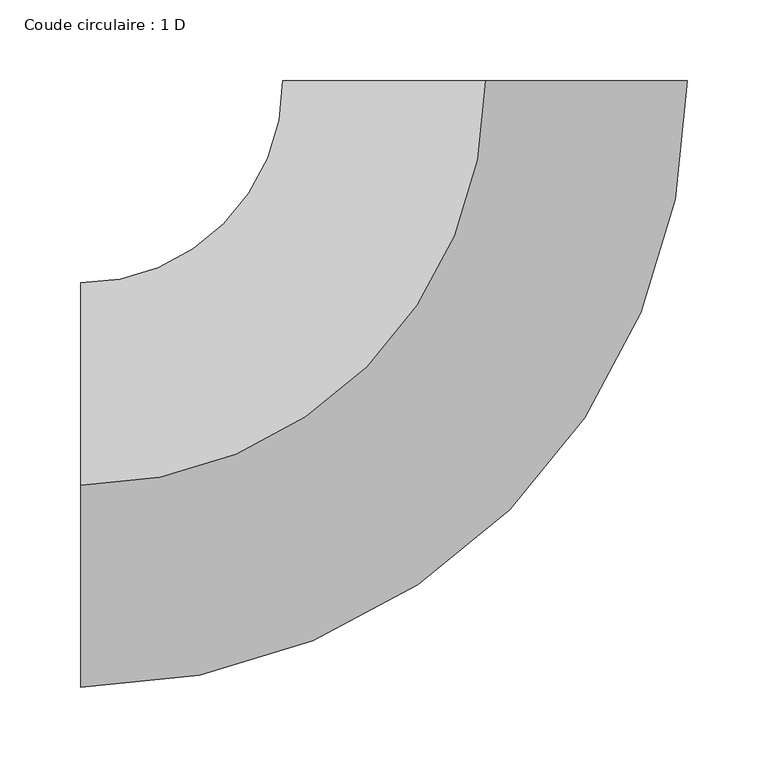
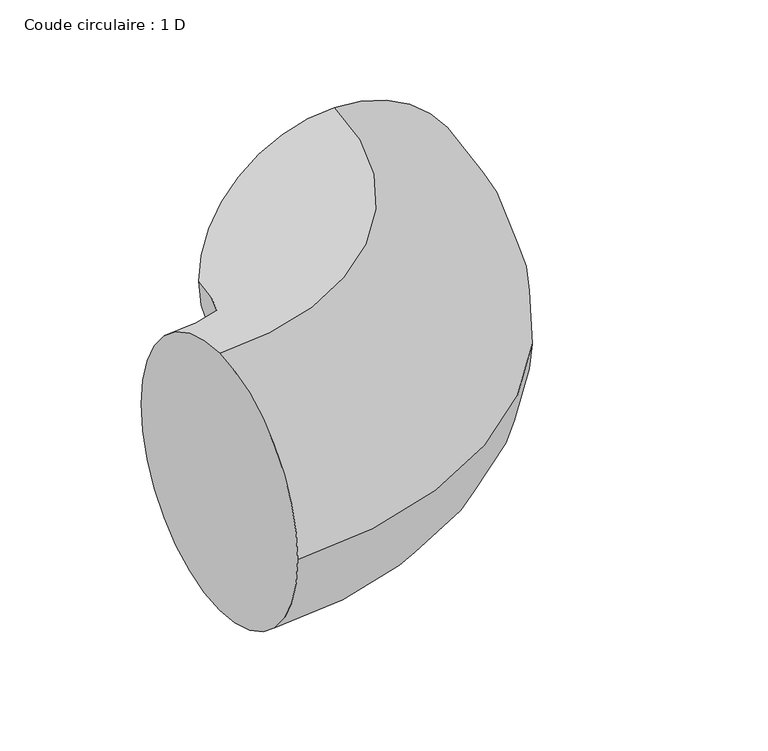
"""IFC4 building model written with IfcOpenShell, lengths in millimetres: duct fitting geometry, Coude circulaire : 1 D."""

from ifc_helpers import new_model, si_unit, point, frame, origin, place, context, project, spatial, circle_curve, ellipse_curve, trimmed, source, transform, mapped, element, save
from ifc_brep_helpers import plane_surface, revolved_surface, advanced_brep


def coude_circulaire_1_d_a49ceb65(model_context):
    return source(origin(), model_context, "Body", "AdvancedBrep", [
        advanced_brep(
        [(-250.0003567, 0.0, 125.0), (-250.0003567, 125.0, 0.0), (-250.0003567, 0.0, -125.0), (-250.0003567, -125.0, 0.0), (-0.0003567, 250.0003567, 125.0), (124.9996433, 250.0005351, 0.0), (-0.0003567, 250.0003567, -125.0), (-125.0003567, 250.0001784, 0.0)],
        [
            (0, 1, circle_curve(frame((-250.0003567, 0.0, 0.0), z_axis=(-1.0, 0.0, 0.0), x_axis=(0.0, 1.0, 0.0)), 125.0)),
            (1, 2, circle_curve(frame((-250.0003567, 0.0, 0.0), z_axis=(-1.0, 0.0, 0.0), x_axis=(0.0, 1.0, 0.0)), 125.0)),
            (2, 3, circle_curve(frame((-250.0003567, 0.0, 0.0), z_axis=(-1.0, 0.0, 0.0), x_axis=(0.0, 1.0, 0.0)), 125.0)),
            (3, 0, circle_curve(frame((-250.0003567, 0.0, 0.0), z_axis=(-1.0, 0.0, 0.0), x_axis=(0.0, 1.0, 0.0)), 125.0)),
            (4, 5, circle_curve(frame((-0.0003567, 250.0003567, 0.0), z_axis=(-1.4268128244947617e-06, 0.9999999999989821, 0.0), x_axis=(-0.9999999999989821, -1.4268128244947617e-06, 0.0)), 125.0)),
            (5, 6, circle_curve(frame((-0.0003567, 250.0003567, 0.0), z_axis=(-1.4268128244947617e-06, 0.9999999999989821, 0.0), x_axis=(-0.9999999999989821, -1.4268128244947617e-06, 0.0)), 125.0)),
            (6, 7, circle_curve(frame((-0.0003567, 250.0003567, 0.0), z_axis=(-1.4268128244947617e-06, 0.9999999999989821, 0.0), x_axis=(-0.9999999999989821, -1.4268128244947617e-06, 0.0)), 125.0)),
            (7, 4, circle_curve(frame((-0.0003567, 250.0003567, 0.0), z_axis=(-1.4268128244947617e-06, 0.9999999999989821, 0.0), x_axis=(-0.9999999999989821, -1.4268128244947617e-06, 0.0)), 125.0)),
            (7, 1, circle_curve(frame((-250.0003567, 250.0, 0.0), z_axis=(0.0, 0.0, -1.0), x_axis=(0.0, -1.0, 0.0)), 125.0)),
            (0, 4, circle_curve(frame((-250.0003567, 250.0, 125.0), z_axis=(0.0, 0.0, 1.0), x_axis=(0.0, -1.0, 0.0)), 250.0)),
            (6, 2, circle_curve(frame((-250.0003567, 250.0, -125.0), z_axis=(0.0, 0.0, -1.0), x_axis=(0.0, -1.0, 0.0)), 250.0)),
            (5, 3, circle_curve(frame((-250.0003567, 250.0, 0.0), z_axis=(0.0, 0.0, -1.0), x_axis=(0.0, -1.0, 0.0)), 375.0)),
        ],
        [
            plane_surface(frame((-250.0003567, 0.0, 0.0), z_axis=(-1.0, 0.0, 0.0), x_axis=(0.0, 0.0, 1.0))),
            plane_surface(frame((-0.0003567, 250.0003567, 0.0), z_axis=(-1.4268128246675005e-06, 0.9999999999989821, 0.0), x_axis=(0.0, 0.0, 1.0))),
            revolved_surface(trimmed(ellipse_curve(frame((-250.0003567, 0.0, 0.0), z_axis=(-1.0, 0.0, 0.0), x_axis=(0.0, 1.0, 0.0)), 125.0, 125.0), [point((-250.0003567, 0.0, 125.0))], [point((-250.0003567, 125.0, 0.0))], True, "CARTESIAN"), (-250.0003567, 250.0, 0.0), (0.0, 0.0, 1.0)),
            revolved_surface(trimmed(ellipse_curve(frame((-250.0003567, 0.0, 0.0), z_axis=(-1.0, 0.0, 0.0), x_axis=(0.0, 1.0, 0.0)), 125.0, 125.0), [point((-250.0003567, 125.0, 0.0))], [point((-250.0003567, 0.0, -125.0))], True, "CARTESIAN"), (-250.0003567, 250.0, 0.0), (0.0, 0.0, 1.0)),
            revolved_surface(trimmed(ellipse_curve(frame((-250.0003567, 0.0, 0.0), z_axis=(-1.0, 0.0, 0.0), x_axis=(0.0, 1.0, 0.0)), 125.0, 125.0), [point((-250.0003567, 0.0, -125.0))], [point((-250.0003567, -125.0, 0.0))], True, "CARTESIAN"), (-250.0003567, 250.0, 0.0), (0.0, 0.0, 1.0)),
            revolved_surface(trimmed(ellipse_curve(frame((-250.0003567, 0.0, 0.0), z_axis=(-1.0, 0.0, 0.0), x_axis=(0.0, 1.0, 0.0)), 125.0, 125.0), [point((-250.0003567, -125.0, 0.0))], [point((-250.0003567, 0.0, 125.0))], True, "CARTESIAN"), (-250.0003567, 250.0, 0.0), (0.0, 0.0, 1.0)),
        ],
        [
            (0, [[1, 2, 3, 4]]),
            (1, [[5, 6, 7, 8]]),
            (2, [[9, -1, 10, -8]]),
            (3, [[11, -2, -9, -7]]),
            (4, [[12, -3, -11, -6]]),
            (5, [[-10, -4, -12, -5]]),
        ],
    ),
    ])


if __name__ == "__main__":
    model = new_model("IFC4")
    model_context = context("Model", 3, world=origin())
    ifc_project = project(units=[si_unit("LENGTHUNIT", "METRE", prefix="MILLI")], contexts=[model_context])
    site = spatial("IfcSite", under=ifc_project)
    building = spatial("IfcBuilding", under=site)
    placement = place(None, origin())
    coude_circulaire_1_d_shape = coude_circulaire_1_d_a49ceb65(model_context)
    element("IfcDuctFitting", 1, ObjectType="Coude circulaire : 1 D", at=placement, inside=building, context=model_context, shape_type="MappedRepresentation", body=[
        mapped(coude_circulaire_1_d_shape, transform((0.0, 0.0, 0.0), x_axis=(1.0, 0.0, 0.0), y_axis=(0.0, 1.0, 0.0), z_axis=(0.0, 0.0, 1.0))),
    ])
    save(model, "model.ifc")
